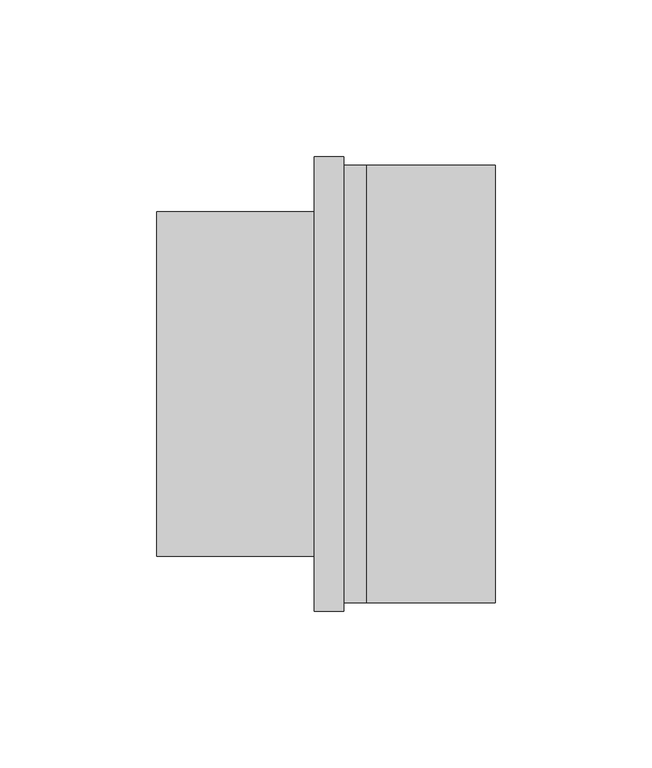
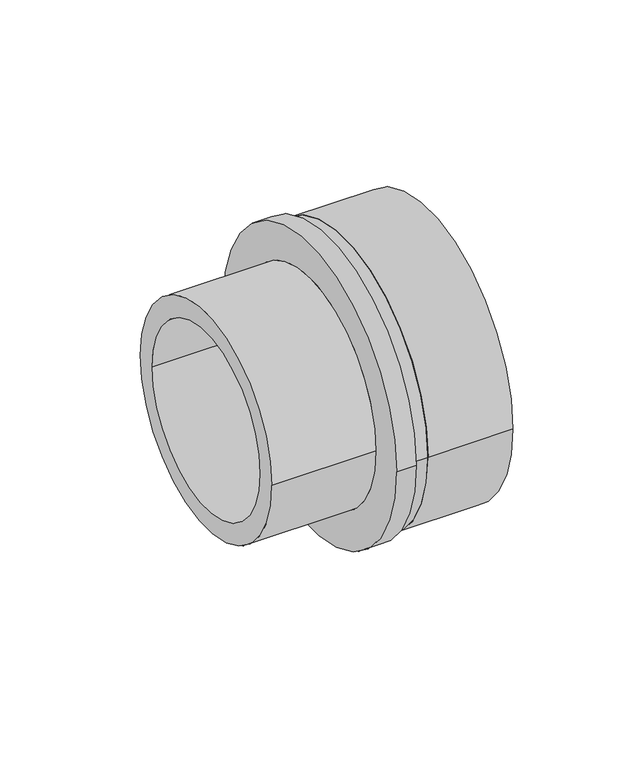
"""IFC4 building model written with IfcOpenShell, lengths in millimetres: pipe fitting geometry, Adapter with welding end : A welding RX."""

from ifc_helpers import new_model, si_unit, point, frame, origin, origin_2d, place, context, project, spatial, polyline, circle_curve, trimmed, segment, composite_curve, outline, extrude, source, transform, mapped, element, save
from ifc_brep_helpers import plane_surface, cylinder_surface, revolved_surface, advanced_brep


def pipe_fitting_60fb9633(model_context):
    return source(origin(), model_context, "Body", "SolidModel", [
        extrude(outline(composite_curve([segment(trimmed(circle_curve(origin_2d(), 69.8), [point((-69.8, 0.0))], [point((69.8, 0.0))], False, "CARTESIAN"), True, "CONTINUOUS"), segment(trimmed(circle_curve(origin_2d(), 69.8), [point((69.8, 0.0))], [point((-69.8, 0.0))], False, "CARTESIAN"), True, "CONTINUOUS")], self_intersect=False), holes=[composite_curve([segment(trimmed(circle_curve(origin_2d(), 66.95), [point((66.95, 0.0))], [point((-66.95, 0.0))], True, "CARTESIAN"), True, "CONTINUOUS"), segment(trimmed(circle_curve(origin_2d(), 66.95), [point((-66.95, 0.0))], [point((66.95, 0.0))], True, "CARTESIAN"), True, "CONTINUOUS")], self_intersect=False)]), frame((0.0, 0.0, 0.0), z_axis=(1.0, 0.0, 0.0), x_axis=(0.0, 1.0, 0.0)), (0.0, 0.0, 1.0), 41.0),
        advanced_brep(
        [(0.0, 69.8, 0.0), (0.0, -69.8, 0.0), (-7.3, -69.8, 0.0), (-7.3, 69.8, 0.0), (-7.3, 66.95, 0.0), (-7.3, -66.95, 0.0), (0.0, -66.95, 0.0), (0.0, 66.95, 0.0), (-67.0, 45.0, 0.0), (-67.0, -45.0, 0.0), (-7.3, -45.0, 0.0), (-7.3, 45.0, 0.0), (-16.7, 55.0, 0.0), (-16.7, -55.0, 0.0), (-67.0, -55.0, 0.0), (-67.0, 55.0, 0.0), (-7.3, 72.5, 0.0), (-7.3, -72.5, 0.0), (-16.7, -72.5, 0.0), (-16.7, 72.5, 0.0)],
        [
            (0, 1, circle_curve(frame((0.0, 0.0, 0.0), z_axis=(-1.0, 0.0, 0.0), x_axis=(0.0, -1.0, 0.0)), 69.8)),
            (1, 2),
            (2, 3, circle_curve(frame((-7.3, 0.0, 0.0), z_axis=(1.0, 0.0, 0.0), x_axis=(0.0, -1.0, 0.0)), 69.8)),
            (3, 0),
            (4, 5, circle_curve(frame((-7.3, 0.0, 0.0), z_axis=(-1.0, 0.0, 0.0), x_axis=(0.0, -1.0, 0.0)), 66.95)),
            (5, 6),
            (6, 7, circle_curve(frame((0.0, 0.0, 0.0), z_axis=(1.0, 0.0, 0.0), x_axis=(0.0, -1.0, 0.0)), 66.95)),
            (7, 4),
            (8, 9, circle_curve(frame((-67.0, 0.0, 0.0), z_axis=(-1.0, 0.0, 0.0), x_axis=(0.0, -1.0, 0.0)), 45.0)),
            (9, 10),
            (10, 11, circle_curve(frame((-7.3, 0.0, 0.0), z_axis=(1.0, 0.0, 0.0), x_axis=(0.0, -1.0, 0.0)), 45.0)),
            (11, 8),
            (12, 13, circle_curve(frame((-16.7, 0.0, 0.0), z_axis=(-1.0, 0.0, 0.0), x_axis=(0.0, -1.0, 0.0)), 55.0)),
            (13, 14),
            (14, 15, circle_curve(frame((-67.0, 0.0, 0.0), z_axis=(1.0, 0.0, 0.0), x_axis=(0.0, -1.0, 0.0)), 55.0)),
            (15, 12),
            (16, 17, circle_curve(frame((-7.3, 0.0, 0.0), z_axis=(-1.0, 0.0, 0.0), x_axis=(0.0, -1.0, 0.0)), 72.5)),
            (17, 18),
            (18, 19, circle_curve(frame((-16.7, 0.0, 0.0), z_axis=(1.0, 0.0, 0.0), x_axis=(0.0, -1.0, 0.0)), 72.5)),
            (19, 16),
            (16, 17, circle_curve(frame((-7.3, 0.0, 0.0), z_axis=(1.0, 0.0, 0.0), x_axis=(0.0, 1.0, 0.0)), 72.5)),
            (2, 3, circle_curve(frame((-7.3, 0.0, 0.0), z_axis=(-1.0, 0.0, 0.0), x_axis=(0.0, 1.0, 0.0)), 69.8)),
            (1, 0, circle_curve(frame((0.0, 0.0, 0.0), z_axis=(-1.0, 0.0, 0.0), x_axis=(0.0, 1.0, 0.0)), 69.8)),
            (6, 7, circle_curve(frame((0.0, 0.0, 0.0), z_axis=(-1.0, 0.0, 0.0), x_axis=(0.0, 1.0, 0.0)), 66.95)),
            (5, 4, circle_curve(frame((-7.3, 0.0, 0.0), z_axis=(-1.0, 0.0, 0.0), x_axis=(0.0, 1.0, 0.0)), 66.95)),
            (10, 11, circle_curve(frame((-7.3, 0.0, 0.0), z_axis=(-1.0, 0.0, 0.0), x_axis=(0.0, 1.0, 0.0)), 45.0)),
            (9, 8, circle_curve(frame((-67.0, 0.0, 0.0), z_axis=(-1.0, 0.0, 0.0), x_axis=(0.0, 1.0, 0.0)), 45.0)),
            (14, 15, circle_curve(frame((-67.0, 0.0, 0.0), z_axis=(-1.0, 0.0, 0.0), x_axis=(0.0, 1.0, 0.0)), 55.0)),
            (13, 12, circle_curve(frame((-16.7, 0.0, 0.0), z_axis=(-1.0, 0.0, 0.0), x_axis=(0.0, 1.0, 0.0)), 55.0)),
            (18, 19, circle_curve(frame((-16.7, 0.0, 0.0), z_axis=(-1.0, 0.0, 0.0), x_axis=(0.0, 1.0, 0.0)), 72.5)),
        ],
        [
            cylinder_surface(frame((0.0, 0.0, 0.0), z_axis=(1.0, 0.0, 0.0), x_axis=(0.0, -1.0, 0.0)), 69.8),
            revolved_surface(polyline([(0.0, -66.95, 0.0), (-7.3, -66.95, 0.0)]), (0.0, 0.0, 0.0), (1.0, 0.0, 0.0)),
            revolved_surface(polyline([(-7.3, -45.0, 0.0), (-67.0, -45.0, 0.0)]), (0.0, 0.0, 0.0), (1.0, 0.0, 0.0)),
            cylinder_surface(frame((0.0, 0.0, 0.0), z_axis=(1.0, 0.0, 0.0), x_axis=(0.0, -1.0, 0.0)), 55.0),
            cylinder_surface(frame((0.0, 0.0, 0.0), z_axis=(1.0, 0.0, 0.0), x_axis=(0.0, -1.0, 0.0)), 72.5),
            plane_surface(frame((-7.3, 0.0, 0.0), z_axis=(1.0, 0.0, 0.0), x_axis=(0.0, 1.0, 0.0))),
            cylinder_surface(frame((0.0, 0.0, 0.0), z_axis=(1.0, 0.0, 0.0), x_axis=(0.0, 1.0, 0.0)), 69.8),
            plane_surface(frame((0.0, 0.0, 0.0), z_axis=(1.0, 0.0, 0.0), x_axis=(0.0, 1.0, 0.0))),
            revolved_surface(polyline([(0.0, 66.95, 0.0), (-7.3, 66.95, 0.0)]), (0.0, 0.0, 0.0), (1.0, 0.0, 0.0)),
            revolved_surface(polyline([(-7.3, 45.0, 0.0), (-67.0, 45.0, 0.0)]), (0.0, 0.0, 0.0), (1.0, 0.0, 0.0)),
            plane_surface(frame((-67.0, 0.0, 0.0), z_axis=(-1.0, 0.0, 0.0), x_axis=(0.0, 1.0, 0.0))),
            cylinder_surface(frame((0.0, 0.0, 0.0), z_axis=(1.0, 0.0, 0.0), x_axis=(0.0, 1.0, 0.0)), 55.0),
            plane_surface(frame((-16.7, 0.0, 0.0), z_axis=(-1.0, 0.0, 0.0), x_axis=(0.0, 1.0, 0.0))),
            cylinder_surface(frame((0.0, 0.0, 0.0), z_axis=(1.0, 0.0, 0.0), x_axis=(0.0, 1.0, 0.0)), 72.5),
        ],
        [
            (0, [[1, 2, 3, 4]]),
            (1, [[5, 6, 7, 8]]),
            (2, [[9, 10, 11, 12]]),
            (3, [[13, 14, 15, 16]]),
            (4, [[17, 18, 19, 20]]),
            (5, [[21, -17], [22, -3]]),
            (6, [[23, -4, -22, -2]]),
            (7, [[-23, -1], [24, -7]]),
            (8, [[25, -8, -24, -6]]),
            (5, [[-25, -5], [26, -11]]),
            (9, [[27, -12, -26, -10]]),
            (10, [[28, -15], [-27, -9]]),
            (11, [[29, -16, -28, -14]]),
            (12, [[30, -19], [-29, -13]]),
            (13, [[-21, -20, -30, -18]]),
        ],
    ),
    ])


if __name__ == "__main__":
    model = new_model("IFC4")
    model_context = context("Model", 3, world=origin())
    ifc_project = project(units=[si_unit("LENGTHUNIT", "METRE", prefix="MILLI")], contexts=[model_context])
    site = spatial("IfcSite", under=ifc_project)
    building = spatial("IfcBuilding", under=site)
    placement = place(None, origin())
    pipe_fitting_shape = pipe_fitting_60fb9633(model_context)
    element("IfcPipeFitting", 1, ObjectType="Adapter with welding end : A welding RX", at=placement, inside=building, context=model_context, shape_type="MappedRepresentation", body=[
        mapped(pipe_fitting_shape, transform((0.0, 0.0, 0.0), x_axis=(1.0, 0.0, 0.0), y_axis=(0.0, 1.0, 0.0), z_axis=(0.0, 0.0, 1.0))),
    ])
    save(model, "model.ifc")
